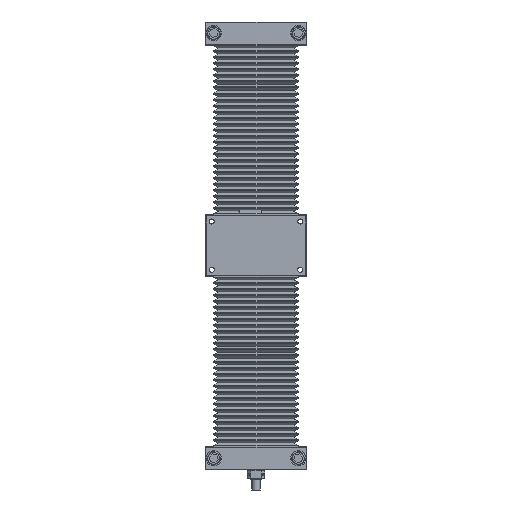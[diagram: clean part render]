
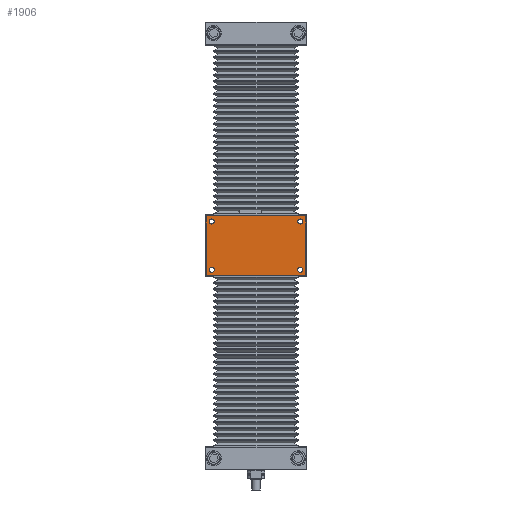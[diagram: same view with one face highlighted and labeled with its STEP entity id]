
A CAD part, front view. The second image highlights one B-rep face of the part: STEP entity #1906.
In plain terms, the highlighted planar face has unit normal (0, -1, 0).
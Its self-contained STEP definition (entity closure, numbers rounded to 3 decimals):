
#1153 = PLANE ( 'NONE',  #3818 ) ;
#1657 = CARTESIAN_POINT ( 'NONE',  ( 44., -18., 51.5 ) ) ;
#1716 = FACE_BOUND ( 'NONE', #8743, .T. ) ;
#1773 = AXIS2_PLACEMENT_3D ( 'NONE', #24036, #18139, #35605 ) ;
#1894 = CARTESIAN_POINT ( 'NONE',  ( 44., -18., 6. ) ) ;
#1906 = ADVANCED_FACE ( 'NONE', ( #4011, #27236, #27791, #1716, #7641 ), #1153, .F. ) ;
#2201 = VECTOR ( 'NONE', #36287, 1000. ) ;
#2971 = CIRCLE ( 'NONE', #22418, 2.5 ) ;
#3548 = CARTESIAN_POINT ( 'NONE',  ( 44., -18., 8.5 ) ) ;
#3818 = AXIS2_PLACEMENT_3D ( 'NONE', #13348, #13526, #24381 ) ;
#4011 = FACE_OUTER_BOUND ( 'NONE', #27448, .T. ) ;
#4194 = ORIENTED_EDGE ( 'NONE', *, *, #5084, .T. ) ;
#4351 = CARTESIAN_POINT ( 'NONE',  ( -49.5, -18., 60. ) ) ;
#4458 = CARTESIAN_POINT ( 'NONE',  ( -44., -18., 51.5 ) ) ;
#4539 = ORIENTED_EDGE ( 'NONE', *, *, #16270, .T. ) ;
#4640 = VECTOR ( 'NONE', #8742, 1000. ) ;
#4784 = ORIENTED_EDGE ( 'NONE', *, *, #27985, .T. ) ;
#5084 = EDGE_CURVE ( 'NONE', #18155, #13048, #11210, .T. ) ;
#5118 = CARTESIAN_POINT ( 'NONE',  ( -44., -18., 56.5 ) ) ;
#5199 = ORIENTED_EDGE ( 'NONE', *, *, #31041, .T. ) ;
#6300 = CARTESIAN_POINT ( 'NONE',  ( -49.5, -18., 0.5 ) ) ;
#6456 = DIRECTION ( 'NONE',  ( 0., 1., 0. ) ) ;
#7255 = AXIS2_PLACEMENT_3D ( 'NONE', #1894, #27218, #18651 ) ;
#7312 = CIRCLE ( 'NONE', #20069, 2.5 ) ;
#7576 = LINE ( 'NONE', #28092, #31982 ) ;
#7641 = FACE_BOUND ( 'NONE', #31130, .T. ) ;
#8237 = EDGE_CURVE ( 'NONE', #18536, #9568, #34453, .T. ) ;
#8449 = VECTOR ( 'NONE', #19490, 1000. ) ;
#8450 = EDGE_LOOP ( 'NONE', ( #25493, #4194 ) ) ;
#8742 = DIRECTION ( 'NONE',  ( -1., 0., 0. ) ) ;
#8743 = EDGE_LOOP ( 'NONE', ( #30786, #19231 ) ) ;
#8906 = CARTESIAN_POINT ( 'NONE',  ( 44., -18., 54. ) ) ;
#9045 = DIRECTION ( 'NONE',  ( 0., 1., 0. ) ) ;
#9102 = ORIENTED_EDGE ( 'NONE', *, *, #28310, .T. ) ;
#9314 = VERTEX_POINT ( 'NONE', #6300 ) ;
#9568 = VERTEX_POINT ( 'NONE', #5118 ) ;
#10365 = LINE ( 'NONE', #22141, #8449 ) ;
#10774 = CARTESIAN_POINT ( 'NONE',  ( 44., -18., 6. ) ) ;
#11194 = ORIENTED_EDGE ( 'NONE', *, *, #33727, .T. ) ;
#11210 = CIRCLE ( 'NONE', #14842, 2.5 ) ;
#11407 = DIRECTION ( 'NONE',  ( 0., 1., 0. ) ) ;
#11558 = DIRECTION ( 'NONE',  ( 0., 1., 0. ) ) ;
#11607 = DIRECTION ( 'NONE',  ( 0., 0., 1. ) ) ;
#13048 = VERTEX_POINT ( 'NONE', #33270 ) ;
#13340 = CIRCLE ( 'NONE', #7255, 2.5 ) ;
#13348 = CARTESIAN_POINT ( 'NONE',  ( -50., -18., 60. ) ) ;
#13526 = DIRECTION ( 'NONE',  ( 0., 1., 0. ) ) ;
#14242 = LINE ( 'NONE', #17852, #4640 ) ;
#14842 = AXIS2_PLACEMENT_3D ( 'NONE', #29458, #6456, #20531 ) ;
#15013 = AXIS2_PLACEMENT_3D ( 'NONE', #10774, #25225, #33961 ) ;
#15042 = VERTEX_POINT ( 'NONE', #28302 ) ;
#15579 = CARTESIAN_POINT ( 'NONE',  ( 49.5, -18., 0.5 ) ) ;
#15954 = LINE ( 'NONE', #4351, #2201 ) ;
#16270 = EDGE_CURVE ( 'NONE', #15042, #9314, #15954, .T. ) ;
#16344 = ORIENTED_EDGE ( 'NONE', *, *, #8237, .T. ) ;
#16762 = EDGE_CURVE ( 'NONE', #25538, #31209, #18060, .T. ) ;
#16887 = ORIENTED_EDGE ( 'NONE', *, *, #18714, .T. ) ;
#16920 = DIRECTION ( 'NONE',  ( 0., 0., 1. ) ) ;
#17852 = CARTESIAN_POINT ( 'NONE',  ( -50., -18., 59.5 ) ) ;
#18060 = CIRCLE ( 'NONE', #15013, 2.5 ) ;
#18139 = DIRECTION ( 'NONE',  ( 0., 1., 0. ) ) ;
#18155 = VERTEX_POINT ( 'NONE', #35364 ) ;
#18219 = EDGE_LOOP ( 'NONE', ( #11194, #16344 ) ) ;
#18536 = VERTEX_POINT ( 'NONE', #4458 ) ;
#18651 = DIRECTION ( 'NONE',  ( 0., 0., 1. ) ) ;
#18714 = EDGE_CURVE ( 'NONE', #25966, #35169, #10365, .T. ) ;
#19231 = ORIENTED_EDGE ( 'NONE', *, *, #16762, .T. ) ;
#19490 = DIRECTION ( 'NONE',  ( 0., 0., 1. ) ) ;
#20030 = CARTESIAN_POINT ( 'NONE',  ( 44., -18., 3.5 ) ) ;
#20069 = AXIS2_PLACEMENT_3D ( 'NONE', #36825, #9045, #22392 ) ;
#20531 = DIRECTION ( 'NONE',  ( 0., 0., 1. ) ) ;
#21052 = DIRECTION ( 'NONE',  ( 0., 0., 1. ) ) ;
#21252 = CIRCLE ( 'NONE', #37624, 2.5 ) ;
#22141 = CARTESIAN_POINT ( 'NONE',  ( 49.5, -18., 60. ) ) ;
#22392 = DIRECTION ( 'NONE',  ( 0., 0., 1. ) ) ;
#22418 = AXIS2_PLACEMENT_3D ( 'NONE', #8906, #11558, #21052 ) ;
#24036 = CARTESIAN_POINT ( 'NONE',  ( 44., -18., 54. ) ) ;
#24381 = DIRECTION ( 'NONE',  ( 0., 0., 1. ) ) ;
#25225 = DIRECTION ( 'NONE',  ( 0., 1., 0. ) ) ;
#25493 = ORIENTED_EDGE ( 'NONE', *, *, #34272, .T. ) ;
#25538 = VERTEX_POINT ( 'NONE', #20030 ) ;
#25966 = VERTEX_POINT ( 'NONE', #15579 ) ;
#26055 = CARTESIAN_POINT ( 'NONE',  ( -44., -18., 54. ) ) ;
#27218 = DIRECTION ( 'NONE',  ( 0., 1., 0. ) ) ;
#27236 = FACE_BOUND ( 'NONE', #8450, .T. ) ;
#27448 = EDGE_LOOP ( 'NONE', ( #4784, #4539, #9102, #16887 ) ) ;
#27791 = FACE_BOUND ( 'NONE', #18219, .T. ) ;
#27985 = EDGE_CURVE ( 'NONE', #35169, #15042, #14242, .T. ) ;
#28092 = CARTESIAN_POINT ( 'NONE',  ( -50., -18., 0.5 ) ) ;
#28302 = CARTESIAN_POINT ( 'NONE',  ( -49.5, -18., 59.5 ) ) ;
#28310 = EDGE_CURVE ( 'NONE', #9314, #25966, #7576, .T. ) ;
#29006 = VERTEX_POINT ( 'NONE', #30623 ) ;
#29127 = CIRCLE ( 'NONE', #1773, 2.5 ) ;
#29458 = CARTESIAN_POINT ( 'NONE',  ( -44., -18., 6. ) ) ;
#30623 = CARTESIAN_POINT ( 'NONE',  ( 44., -18., 56.5 ) ) ;
#30786 = ORIENTED_EDGE ( 'NONE', *, *, #33576, .T. ) ;
#30835 = AXIS2_PLACEMENT_3D ( 'NONE', #26055, #37626, #11607 ) ;
#31041 = EDGE_CURVE ( 'NONE', #34055, #29006, #2971, .T. ) ;
#31130 = EDGE_LOOP ( 'NONE', ( #36007, #5199 ) ) ;
#31209 = VERTEX_POINT ( 'NONE', #3548 ) ;
#31320 = DIRECTION ( 'NONE',  ( 1., 0., 0. ) ) ;
#31552 = EDGE_CURVE ( 'NONE', #29006, #34055, #29127, .T. ) ;
#31750 = CARTESIAN_POINT ( 'NONE',  ( -44., -18., 54. ) ) ;
#31982 = VECTOR ( 'NONE', #31320, 1000. ) ;
#33270 = CARTESIAN_POINT ( 'NONE',  ( -44., -18., 8.5 ) ) ;
#33576 = EDGE_CURVE ( 'NONE', #31209, #25538, #13340, .T. ) ;
#33727 = EDGE_CURVE ( 'NONE', #9568, #18536, #21252, .T. ) ;
#33961 = DIRECTION ( 'NONE',  ( 0., 0., 1. ) ) ;
#34055 = VERTEX_POINT ( 'NONE', #1657 ) ;
#34272 = EDGE_CURVE ( 'NONE', #13048, #18155, #7312, .T. ) ;
#34453 = CIRCLE ( 'NONE', #30835, 2.5 ) ;
#35169 = VERTEX_POINT ( 'NONE', #36875 ) ;
#35364 = CARTESIAN_POINT ( 'NONE',  ( -44., -18., 3.5 ) ) ;
#35605 = DIRECTION ( 'NONE',  ( 0., 0., 1. ) ) ;
#36007 = ORIENTED_EDGE ( 'NONE', *, *, #31552, .T. ) ;
#36287 = DIRECTION ( 'NONE',  ( 0., 0., -1. ) ) ;
#36825 = CARTESIAN_POINT ( 'NONE',  ( -44., -18., 6. ) ) ;
#36875 = CARTESIAN_POINT ( 'NONE',  ( 49.5, -18., 59.5 ) ) ;
#37624 = AXIS2_PLACEMENT_3D ( 'NONE', #31750, #11407, #16920 ) ;
#37626 = DIRECTION ( 'NONE',  ( 0., 1., 0. ) ) ;
